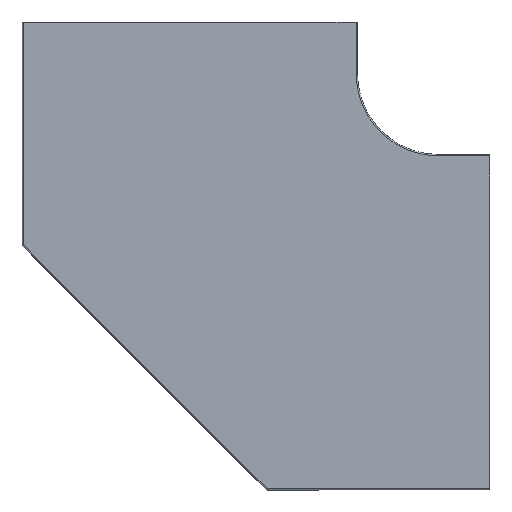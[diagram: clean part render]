
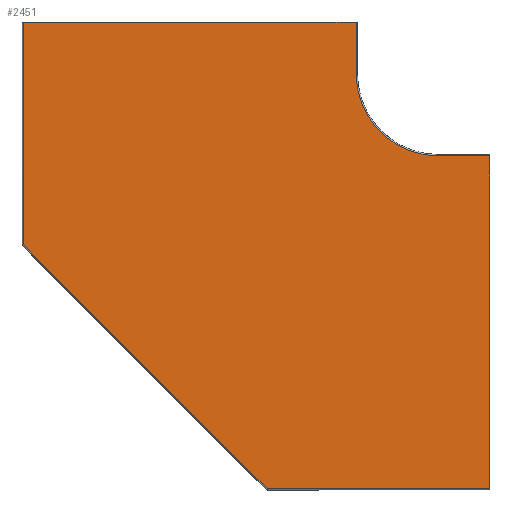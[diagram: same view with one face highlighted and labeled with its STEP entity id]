
A CAD part, front view. The second image highlights one B-rep face of the part: STEP entity #2451.
In plain terms, the highlighted planar face has unit normal (0, -1, 0).
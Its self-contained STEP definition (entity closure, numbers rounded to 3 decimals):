
#72 = VERTEX_POINT ( 'NONE', #9877 ) ;
#262 = CARTESIAN_POINT ( 'NONE',  ( 499., 0., -62. ) ) ;
#405 = LINE ( 'NONE', #5404, #4443 ) ;
#488 = CARTESIAN_POINT ( 'NONE',  ( 0., 0., 0. ) ) ;
#515 = CARTESIAN_POINT ( 'NONE',  ( 561., 0., -161. ) ) ;
#692 = VECTOR ( 'NONE', #7814, 1000. ) ;
#707 = ORIENTED_EDGE ( 'NONE', *, *, #3702, .F. ) ;
#932 = DIRECTION ( 'NONE',  ( 0., 0., -1. ) ) ;
#1170 = DIRECTION ( 'NONE',  ( 0., 0., 1. ) ) ;
#1596 = CARTESIAN_POINT ( 'NONE',  ( 499., 0., -62. ) ) ;
#1620 = CARTESIAN_POINT ( 'NONE',  ( 0., 0., 0. ) ) ;
#1639 = VECTOR ( 'NONE', #8016, 1000. ) ;
#1644 = ORIENTED_EDGE ( 'NONE', *, *, #8898, .F. ) ;
#2026 = CARTESIAN_POINT ( 'NONE',  ( 293., 0., -561. ) ) ;
#2052 = DIRECTION ( 'NONE',  ( 0., 0., -1. ) ) ;
#2074 = VECTOR ( 'NONE', #7306, 1000. ) ;
#2131 = VERTEX_POINT ( 'NONE', #515 ) ;
#2142 = ORIENTED_EDGE ( 'NONE', *, *, #10247, .F. ) ;
#2451 = ADVANCED_FACE ( 'NONE', ( #6639 ), #10099, .T. ) ;
#2914 = LINE ( 'NONE', #4434, #6936 ) ;
#3038 = EDGE_CURVE ( 'NONE', #4833, #8103, #3691, .T. ) ;
#3039 = CARTESIAN_POINT ( 'NONE',  ( 400., 0., 0. ) ) ;
#3282 = DIRECTION ( 'NONE',  ( 0., -1., 0. ) ) ;
#3384 = ORIENTED_EDGE ( 'NONE', *, *, #3038, .F. ) ;
#3620 = VERTEX_POINT ( 'NONE', #6008 ) ;
#3691 = LINE ( 'NONE', #10343, #1639 ) ;
#3702 = EDGE_CURVE ( 'NONE', #7373, #3620, #7152, .T. ) ;
#3719 = DIRECTION ( 'NONE',  ( -0.707, 0., 0.707 ) ) ;
#4007 = VECTOR ( 'NONE', #9561, 1000. ) ;
#4126 = ORIENTED_EDGE ( 'NONE', *, *, #5521, .F. ) ;
#4434 = CARTESIAN_POINT ( 'NONE',  ( 0., 0., 0. ) ) ;
#4443 = VECTOR ( 'NONE', #3719, 1000. ) ;
#4833 = VERTEX_POINT ( 'NONE', #6189 ) ;
#4873 = LINE ( 'NONE', #8936, #2074 ) ;
#5092 = CARTESIAN_POINT ( 'NONE',  ( 400., 0., 0. ) ) ;
#5404 = CARTESIAN_POINT ( 'NONE',  ( 0., 0., -268. ) ) ;
#5521 = EDGE_CURVE ( 'NONE', #8103, #72, #405, .T. ) ;
#5529 = CARTESIAN_POINT ( 'NONE',  ( 499., 0., -161. ) ) ;
#5935 = EDGE_LOOP ( 'NONE', ( #7243, #4126, #3384, #9229, #2142, #9853, #707, #1644 ) ) ;
#5997 = DIRECTION ( 'NONE',  ( 0., -1., 0. ) ) ;
#6008 = CARTESIAN_POINT ( 'NONE',  ( 400., 0., -62. ) ) ;
#6183 = VERTEX_POINT ( 'NONE', #5529 ) ;
#6189 = CARTESIAN_POINT ( 'NONE',  ( 561., 0., -561. ) ) ;
#6276 = VECTOR ( 'NONE', #9590, 1000. ) ;
#6302 = LINE ( 'NONE', #7066, #4007 ) ;
#6511 = AXIS2_PLACEMENT_3D ( 'NONE', #1596, #3282, #932 ) ;
#6639 = FACE_OUTER_BOUND ( 'NONE', #5935, .T. ) ;
#6730 = AXIS2_PLACEMENT_3D ( 'NONE', #262, #5997, #2052 ) ;
#6936 = VECTOR ( 'NONE', #1170, 1000. ) ;
#7002 = LINE ( 'NONE', #488, #692 ) ;
#7066 = CARTESIAN_POINT ( 'NONE',  ( 499., 0., -161. ) ) ;
#7152 = LINE ( 'NONE', #3039, #6276 ) ;
#7243 = ORIENTED_EDGE ( 'NONE', *, *, #9838, .F. ) ;
#7306 = DIRECTION ( 'NONE',  ( 0., 0., -1. ) ) ;
#7373 = VERTEX_POINT ( 'NONE', #5092 ) ;
#7489 = EDGE_CURVE ( 'NONE', #3620, #6183, #10364, .T. ) ;
#7696 = EDGE_CURVE ( 'NONE', #2131, #4833, #4873, .T. ) ;
#7814 = DIRECTION ( 'NONE',  ( 1., 0., 0. ) ) ;
#8016 = DIRECTION ( 'NONE',  ( -1., 0., 0. ) ) ;
#8103 = VERTEX_POINT ( 'NONE', #2026 ) ;
#8898 = EDGE_CURVE ( 'NONE', #9098, #7373, #7002, .T. ) ;
#8936 = CARTESIAN_POINT ( 'NONE',  ( 561., 0., -161. ) ) ;
#9098 = VERTEX_POINT ( 'NONE', #1620 ) ;
#9229 = ORIENTED_EDGE ( 'NONE', *, *, #7696, .F. ) ;
#9561 = DIRECTION ( 'NONE',  ( 1., 0., 0. ) ) ;
#9590 = DIRECTION ( 'NONE',  ( 0., 0., -1. ) ) ;
#9838 = EDGE_CURVE ( 'NONE', #72, #9098, #2914, .T. ) ;
#9853 = ORIENTED_EDGE ( 'NONE', *, *, #7489, .F. ) ;
#9877 = CARTESIAN_POINT ( 'NONE',  ( 0., 0., -268. ) ) ;
#10099 = PLANE ( 'NONE',  #6511 ) ;
#10247 = EDGE_CURVE ( 'NONE', #6183, #2131, #6302, .T. ) ;
#10343 = CARTESIAN_POINT ( 'NONE',  ( 293., 0., -561. ) ) ;
#10364 = CIRCLE ( 'NONE', #6730, 99. ) ;
